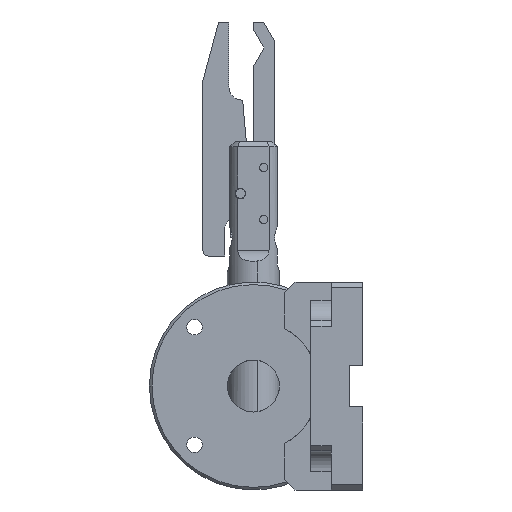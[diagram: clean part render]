
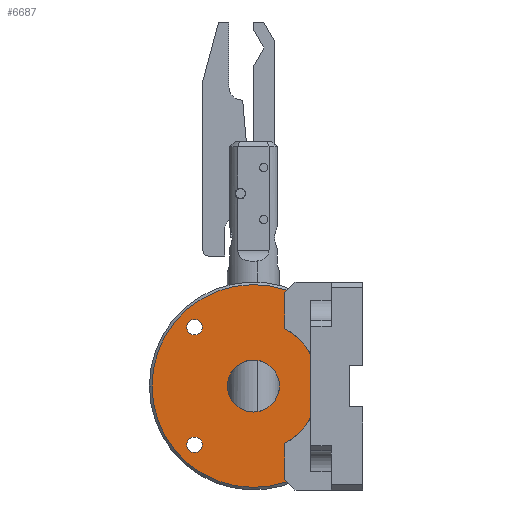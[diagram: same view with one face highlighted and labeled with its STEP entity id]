
A CAD part, left-side view. The second image highlights one B-rep face of the part: STEP entity #6687.
In plain terms, the highlighted planar face has unit normal (-1, 0, 0).
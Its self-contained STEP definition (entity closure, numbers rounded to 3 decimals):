
#13 = DIRECTION ( 'NONE',  ( 0., -1., 0. ) ) ;
#53 = ORIENTED_EDGE ( 'NONE', *, *, #577, .T. ) ;
#65 = CARTESIAN_POINT ( 'NONE',  ( 0., 21., 20. ) ) ;
#73 = CARTESIAN_POINT ( 'NONE',  ( 0., 40.5, 20. ) ) ;
#135 = CARTESIAN_POINT ( 'NONE',  ( 0., 21., 20. ) ) ;
#144 = FACE_BOUND ( 'NONE', #6725, .T. ) ;
#240 = LINE ( 'NONE', #9271, #8606 ) ;
#247 = CARTESIAN_POINT ( 'NONE',  ( 0., 21., 20. ) ) ;
#326 = EDGE_CURVE ( 'NONE', #1924, #5175, #240, .T. ) ;
#529 = DIRECTION ( 'NONE',  ( -1., 0., 0. ) ) ;
#577 = EDGE_CURVE ( 'NONE', #1794, #9243, #11239, .T. ) ;
#608 = CARTESIAN_POINT ( 'NONE',  ( 0., 32.314, 32.814 ) ) ;
#709 = VERTEX_POINT ( 'NONE', #1953 ) ;
#732 = EDGE_CURVE ( 'NONE', #709, #8344, #8565, .T. ) ;
#762 = DIRECTION ( 'NONE',  ( 0., -0.707, 0.707 ) ) ;
#858 = PLANE ( 'NONE',  #7598 ) ;
#928 = DIRECTION ( 'NONE',  ( -1., 0., 0. ) ) ;
#1194 = AXIS2_PLACEMENT_3D ( 'NONE', #5063, #11348, #3398 ) ;
#1395 = LINE ( 'NONE', #10453, #5872 ) ;
#1478 = AXIS2_PLACEMENT_3D ( 'NONE', #9020, #9059, #3766 ) ;
#1490 = AXIS2_PLACEMENT_3D ( 'NONE', #5438, #928, #7263 ) ;
#1530 = CIRCLE ( 'NONE', #5608, 5. ) ;
#1708 = DIRECTION ( 'NONE',  ( 1., 0., 0. ) ) ;
#1794 = VERTEX_POINT ( 'NONE', #5250 ) ;
#1854 = ORIENTED_EDGE ( 'NONE', *, *, #9942, .T. ) ;
#1924 = VERTEX_POINT ( 'NONE', #2723 ) ;
#1953 = CARTESIAN_POINT ( 'NONE',  ( 0., 21., 25. ) ) ;
#2036 = DIRECTION ( 'NONE',  ( 0., 0., -1. ) ) ;
#2073 = AXIS2_PLACEMENT_3D ( 'NONE', #3917, #5748, #8427 ) ;
#2138 = ORIENTED_EDGE ( 'NONE', *, *, #3447, .T. ) ;
#2219 = CARTESIAN_POINT ( 'NONE',  ( 0., 32.314, 29.814 ) ) ;
#2243 = FACE_OUTER_BOUND ( 'NONE', #8446, .T. ) ;
#2300 = VERTEX_POINT ( 'NONE', #608 ) ;
#2311 = VERTEX_POINT ( 'NONE', #2219 ) ;
#2347 = CARTESIAN_POINT ( 'NONE',  ( 0., 32.314, 10.186 ) ) ;
#2559 = CIRCLE ( 'NONE', #1478, 1.5 ) ;
#2584 = ORIENTED_EDGE ( 'NONE', *, *, #4955, .T. ) ;
#2723 = CARTESIAN_POINT ( 'NONE',  ( 0., 15., 31.08 ) ) ;
#2951 = LINE ( 'NONE', #9519, #7419 ) ;
#3069 = AXIS2_PLACEMENT_3D ( 'NONE', #247, #8244, #2036 ) ;
#3320 = EDGE_CURVE ( 'NONE', #6495, #5485, #11205, .T. ) ;
#3327 = EDGE_LOOP ( 'NONE', ( #10879, #3626 ) ) ;
#3330 = AXIS2_PLACEMENT_3D ( 'NONE', #4981, #529, #4941 ) ;
#3388 = CARTESIAN_POINT ( 'NONE',  ( 0., 15., 38. ) ) ;
#3398 = DIRECTION ( 'NONE',  ( 0., 0., -1. ) ) ;
#3447 = EDGE_CURVE ( 'NONE', #5485, #6495, #2559, .T. ) ;
#3471 = CARTESIAN_POINT ( 'NONE',  ( 0., 15., 2. ) ) ;
#3548 = DIRECTION ( 'NONE',  ( 0., 0., -1. ) ) ;
#3606 = ORIENTED_EDGE ( 'NONE', *, *, #3320, .T. ) ;
#3626 = ORIENTED_EDGE ( 'NONE', *, *, #4731, .T. ) ;
#3715 = ORIENTED_EDGE ( 'NONE', *, *, #11518, .T. ) ;
#3766 = DIRECTION ( 'NONE',  ( 0., 0., -1. ) ) ;
#3917 = CARTESIAN_POINT ( 'NONE',  ( 0., 32.314, 31.314 ) ) ;
#3993 = CARTESIAN_POINT ( 'NONE',  ( 0., 14.585, 1.585 ) ) ;
#4469 = CIRCLE ( 'NONE', #11197, 12.6 ) ;
#4488 = CARTESIAN_POINT ( 'NONE',  ( 0., 43.71, -12.93 ) ) ;
#4731 = EDGE_CURVE ( 'NONE', #2311, #2300, #5861, .T. ) ;
#4746 = DIRECTION ( 'NONE',  ( 0., 0.476, -0.879 ) ) ;
#4752 = EDGE_CURVE ( 'NONE', #1924, #9993, #4469, .T. ) ;
#4802 = ORIENTED_EDGE ( 'NONE', *, *, #7065, .T. ) ;
#4941 = DIRECTION ( 'NONE',  ( 0., -1., 0. ) ) ;
#4955 = EDGE_CURVE ( 'NONE', #5175, #1794, #9588, .T. ) ;
#4967 = VERTEX_POINT ( 'NONE', #3471 ) ;
#4981 = CARTESIAN_POINT ( 'NONE',  ( 0., 21., 20. ) ) ;
#5063 = CARTESIAN_POINT ( 'NONE',  ( 0., 32.314, 8.686 ) ) ;
#5095 = DIRECTION ( 'NONE',  ( 0., 0., 1. ) ) ;
#5175 = VERTEX_POINT ( 'NONE', #8287 ) ;
#5250 = CARTESIAN_POINT ( 'NONE',  ( 0., 14.585, 38.415 ) ) ;
#5258 = DIRECTION ( 'NONE',  ( -1., 0., 0. ) ) ;
#5393 = AXIS2_PLACEMENT_3D ( 'NONE', #5649, #10887, #6550 ) ;
#5438 = CARTESIAN_POINT ( 'NONE',  ( 0., 21., 20. ) ) ;
#5485 = VERTEX_POINT ( 'NONE', #2347 ) ;
#5608 = AXIS2_PLACEMENT_3D ( 'NONE', #65, #1708, #3548 ) ;
#5634 = ORIENTED_EDGE ( 'NONE', *, *, #4752, .F. ) ;
#5646 = ORIENTED_EDGE ( 'NONE', *, *, #10644, .T. ) ;
#5649 = CARTESIAN_POINT ( 'NONE',  ( 0., 32.314, 31.314 ) ) ;
#5748 = DIRECTION ( 'NONE',  ( 1., 0., 0. ) ) ;
#5861 = CIRCLE ( 'NONE', #5393, 1.5 ) ;
#5872 = VECTOR ( 'NONE', #9556, 1000. ) ;
#5940 = VERTEX_POINT ( 'NONE', #3993 ) ;
#6346 = EDGE_LOOP ( 'NONE', ( #8874, #3715 ) ) ;
#6495 = VERTEX_POINT ( 'NONE', #7632 ) ;
#6550 = DIRECTION ( 'NONE',  ( 0., 0., -1. ) ) ;
#6578 = FACE_BOUND ( 'NONE', #3327, .T. ) ;
#6687 = ADVANCED_FACE ( 'NONE', ( #2243, #6578, #144, #9346 ), #858, .T. ) ;
#6725 = EDGE_LOOP ( 'NONE', ( #2138, #3606 ) ) ;
#7065 = EDGE_CURVE ( 'NONE', #9243, #5940, #9599, .T. ) ;
#7089 = VECTOR ( 'NONE', #762, 1000. ) ;
#7263 = DIRECTION ( 'NONE',  ( 0., -1., 0. ) ) ;
#7281 = DIRECTION ( 'NONE',  ( 1., 0., 0. ) ) ;
#7419 = VECTOR ( 'NONE', #5095, 1000. ) ;
#7559 = EDGE_CURVE ( 'NONE', #2300, #2311, #10417, .T. ) ;
#7593 = CARTESIAN_POINT ( 'NONE',  ( 0., 21., 15. ) ) ;
#7598 = AXIS2_PLACEMENT_3D ( 'NONE', #4488, #5258, #13 ) ;
#7632 = CARTESIAN_POINT ( 'NONE',  ( 0., 32.314, 7.186 ) ) ;
#8244 = DIRECTION ( 'NONE',  ( 1., 0., 0. ) ) ;
#8287 = CARTESIAN_POINT ( 'NONE',  ( 0., 15., 38. ) ) ;
#8317 = DIRECTION ( 'NONE',  ( 0., 0., 1. ) ) ;
#8344 = VERTEX_POINT ( 'NONE', #7593 ) ;
#8427 = DIRECTION ( 'NONE',  ( 0., 0., -1. ) ) ;
#8446 = EDGE_LOOP ( 'NONE', ( #53, #4802, #1854, #5646, #5634, #10458, #2584 ) ) ;
#8565 = CIRCLE ( 'NONE', #3069, 5. ) ;
#8606 = VECTOR ( 'NONE', #8317, 1000. ) ;
#8874 = ORIENTED_EDGE ( 'NONE', *, *, #732, .T. ) ;
#9020 = CARTESIAN_POINT ( 'NONE',  ( 0., 32.314, 8.686 ) ) ;
#9059 = DIRECTION ( 'NONE',  ( 1., 0., 0. ) ) ;
#9243 = VERTEX_POINT ( 'NONE', #73 ) ;
#9271 = CARTESIAN_POINT ( 'NONE',  ( 0., 15., 31.08 ) ) ;
#9346 = FACE_BOUND ( 'NONE', #6346, .T. ) ;
#9519 = CARTESIAN_POINT ( 'NONE',  ( 0., 15., 2. ) ) ;
#9556 = DIRECTION ( 'NONE',  ( 0., 0.707, 0.707 ) ) ;
#9588 = LINE ( 'NONE', #3388, #7089 ) ;
#9599 = CIRCLE ( 'NONE', #3330, 19.5 ) ;
#9942 = EDGE_CURVE ( 'NONE', #5940, #4967, #1395, .T. ) ;
#9993 = VERTEX_POINT ( 'NONE', #11276 ) ;
#10417 = CIRCLE ( 'NONE', #2073, 1.5 ) ;
#10453 = CARTESIAN_POINT ( 'NONE',  ( 0., 14.585, 1.585 ) ) ;
#10458 = ORIENTED_EDGE ( 'NONE', *, *, #326, .T. ) ;
#10644 = EDGE_CURVE ( 'NONE', #4967, #9993, #2951, .T. ) ;
#10879 = ORIENTED_EDGE ( 'NONE', *, *, #7559, .T. ) ;
#10887 = DIRECTION ( 'NONE',  ( 1., 0., 0. ) ) ;
#11197 = AXIS2_PLACEMENT_3D ( 'NONE', #135, #7281, #4746 ) ;
#11205 = CIRCLE ( 'NONE', #1194, 1.5 ) ;
#11239 = CIRCLE ( 'NONE', #1490, 19.5 ) ;
#11276 = CARTESIAN_POINT ( 'NONE',  ( 0., 15., 8.92 ) ) ;
#11348 = DIRECTION ( 'NONE',  ( 1., 0., 0. ) ) ;
#11518 = EDGE_CURVE ( 'NONE', #8344, #709, #1530, .T. ) ;
